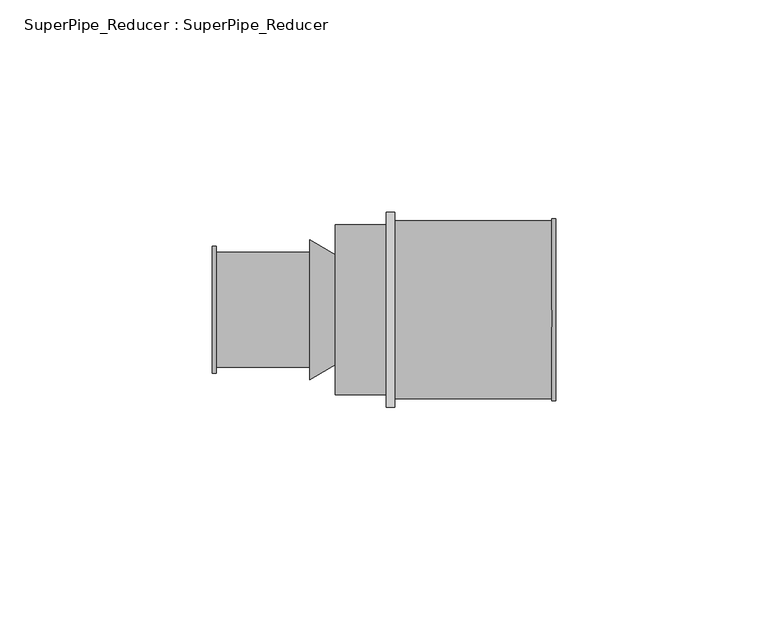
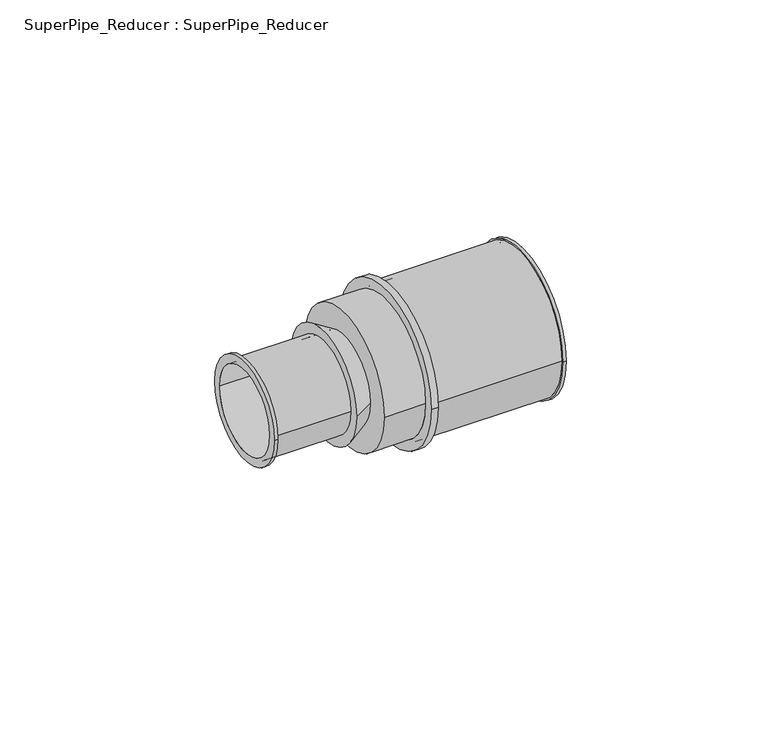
"""IFC4 building model written with IfcOpenShell, lengths in millimetres: pipe fitting geometry, SuperPipe_Reducer : SuperPipe_Reducer."""

from ifc_helpers import new_model, si_unit, point, frame, origin, origin_2d, place, context, project, spatial, polyline, circle_curve, trimmed, segment, composite_curve, outline, extrude, source, transform, mapped, element, save
from ifc_brep_helpers import plane_surface, cylinder_surface, revolved_surface, advanced_brep


def superpipe_reducer_superpipe_reducer_0b1711ec(model_context):
    return source(origin(), model_context, "Body", "SolidModel", [
        advanced_brep(
        [(-29.0, -15.0, 0.0), (-29.0, 15.0, 0.0), (-29.0, -12.5, 0.0), (-29.0, 12.5, 0.0), (-6.0, -13.5, 0.0), (-6.0, 13.5, 0.0), (-6.0, -12.5, 0.0), (-6.0, 12.5, 0.0), (-28.0, -12.5, 0.0), (-28.0, 12.5, 0.0), (-28.0, 13.5, 0.0), (-28.0, -13.5, 0.0), (-28.0, -15.0, 0.0), (-28.0, 15.0, 0.0)],
        [
            (0, 1, circle_curve(frame((-29.0, 0.0, 0.0), z_axis=(-1.0, 0.0, 0.0), x_axis=(0.0, 1.0, 0.0)), 15.0)),
            (1, 0, circle_curve(frame((-29.0, 0.0, 0.0), z_axis=(-1.0, 0.0, 0.0), x_axis=(0.0, 1.0, 0.0)), 15.0)),
            (2, 3, circle_curve(frame((-29.0, 0.0, 0.0), z_axis=(1.0, 0.0, 0.0), x_axis=(0.0, 1.0, 0.0)), 12.5)),
            (3, 2, circle_curve(frame((-29.0, 0.0, 0.0), z_axis=(1.0, 0.0, 0.0), x_axis=(0.0, 1.0, 0.0)), 12.5)),
            (4, 5, circle_curve(frame((-6.0, 0.0, 0.0), z_axis=(1.0, 0.0, 0.0), x_axis=(0.0, 1.0, 0.0)), 13.5)),
            (5, 4, circle_curve(frame((-6.0, 0.0, 0.0), z_axis=(1.0, 0.0, 0.0), x_axis=(0.0, 1.0, 0.0)), 13.5)),
            (6, 7, circle_curve(frame((-6.0, 0.0, 0.0), z_axis=(-1.0, 0.0, 0.0), x_axis=(0.0, 1.0, 0.0)), 12.5)),
            (7, 6, circle_curve(frame((-6.0, 0.0, 0.0), z_axis=(-1.0, 0.0, 0.0), x_axis=(0.0, 1.0, 0.0)), 12.5)),
            (2, 8),
            (8, 6),
            (7, 9),
            (9, 3),
            (5, 10),
            (10, 11, circle_curve(frame((-28.0, 0.0, 0.0), z_axis=(1.0, 0.0, 0.0), x_axis=(0.0, 1.0, 0.0)), 13.5)),
            (11, 4),
            (11, 10, circle_curve(frame((-28.0, 0.0, 0.0), z_axis=(1.0, 0.0, 0.0), x_axis=(0.0, 1.0, 0.0)), 13.5)),
            (12, 13, circle_curve(frame((-28.0, 0.0, 0.0), z_axis=(1.0, 0.0, 0.0), x_axis=(0.0, 1.0, 0.0)), 15.0)),
            (13, 12, circle_curve(frame((-28.0, 0.0, 0.0), z_axis=(1.0, 0.0, 0.0), x_axis=(0.0, 1.0, 0.0)), 15.0)),
            (1, 13),
            (12, 0),
        ],
        [
            plane_surface(frame((-29.0, 0.0, 0.0), z_axis=(-1.0, 0.0, 0.0), x_axis=(0.0, 0.0, 1.0))),
            plane_surface(frame((-6.0, 0.0, 0.0), z_axis=(1.0, 0.0, 0.0), x_axis=(0.0, 0.0, 1.0))),
            revolved_surface(polyline([(-6.0, 12.5, 0.0), (-29.0, 12.5, 0.0)]), (-29.0, 0.0, 0.0), (1.0, 0.0, 0.0)),
            cylinder_surface(frame((-29.0, 0.0, 0.0), z_axis=(-1.0, 0.0, 0.0), x_axis=(0.0, 1.0, 0.0)), 13.5),
            plane_surface(frame((-28.0, 0.0, 0.0), z_axis=(1.0, 0.0, 0.0), x_axis=(0.0, 0.0, 1.0))),
            cylinder_surface(frame((-29.0, 0.0, 0.0), z_axis=(-1.0, 0.0, 0.0), x_axis=(0.0, 1.0, 0.0)), 15.0),
        ],
        [
            (0, [[1, 2], [3, 4]]),
            (1, [[5, 6], [7, 8]]),
            (2, [[-3, 9, 10, -8, 11, 12]]),
            (2, [[-4, -12, -11, -7, -10, -9]]),
            (3, [[-6, 13, 14, 15]]),
            (3, [[-5, -15, 16, -13]]),
            (4, [[17, 18], [-14, -16]]),
            (5, [[-2, 19, -17, 20]]),
            (5, [[-1, -20, -18, -19]]),
        ],
    ),
        advanced_brep(
        [(0.0, -13.0, 0.0), (0.0, 13.0, 0.0), (0.0, -12.5, 0.0), (0.0, 12.5, 0.0), (-6.0, -16.5, 0.0), (-6.0, 16.5, 0.0), (-6.0, 12.5, 0.0), (-6.0, -12.5, 0.0)],
        [
            (0, 1, circle_curve(frame((0.0, 0.0, 0.0), z_axis=(1.0, 0.0, 0.0), x_axis=(0.0, -1.0, 0.0)), 13.0)),
            (1, 0, circle_curve(frame((0.0, 0.0, 0.0), z_axis=(1.0, 0.0, 0.0), x_axis=(0.0, 1.0, 0.0)), 13.0)),
            (2, 3, circle_curve(frame((0.0, 0.0, 0.0), z_axis=(-1.0, 0.0, 0.0), x_axis=(0.0, 1.0, 0.0)), 12.5)),
            (3, 2, circle_curve(frame((0.0, 0.0, 0.0), z_axis=(-1.0, 0.0, 0.0), x_axis=(0.0, 1.0, 0.0)), 12.5)),
            (4, 5, circle_curve(frame((-6.0, 0.0, 0.0), z_axis=(-1.0, 0.0, 0.0), x_axis=(0.0, 1.0, 0.0)), 16.5)),
            (5, 4, circle_curve(frame((-6.0, 0.0, 0.0), z_axis=(-1.0, 0.0, 0.0), x_axis=(0.0, -1.0, 0.0)), 16.5)),
            (6, 7, circle_curve(frame((-6.0, 0.0, 0.0), z_axis=(1.0, 0.0, 0.0), x_axis=(0.0, 1.0, 0.0)), 12.5)),
            (7, 6, circle_curve(frame((-6.0, 0.0, 0.0), z_axis=(1.0, 0.0, 0.0), x_axis=(0.0, 1.0, 0.0)), 12.5)),
            (0, 4),
            (5, 1),
            (6, 3),
            (2, 7),
        ],
        [
            plane_surface(frame((0.0, 0.0, 0.0), z_axis=(1.0, 0.0, 0.0), x_axis=(0.0, 0.0, -1.0))),
            plane_surface(frame((-6.0, 0.0, 0.0), z_axis=(-1.0, 0.0, 0.0), x_axis=(0.0, 0.0, -1.0))),
            revolved_surface(polyline([(0.0, -13.000000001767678, 0.0), (-6.0, -16.5, 0.0)]), (22.2857143, 0.0, 0.0), (-1.0, 0.0, 0.0)),
            revolved_surface(polyline([(0.0, 13.000000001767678, 0.0), (-6.0, 16.5, 0.0)]), (22.2857143, 0.0, 0.0), (-1.0, 0.0, 0.0)),
            revolved_surface(polyline([(-6.0, 12.5, 0.0), (0.0, 12.5, 0.0)]), (-6.0, 0.0, 0.0), (-1.0, 0.0, 0.0)),
        ],
        [
            (0, [[1, 2], [3, 4]]),
            (1, [[5, 6], [7, 8]]),
            (2, [[-1, 9, -6, 10]]),
            (3, [[-2, -10, -5, -9]]),
            (4, [[11, -3, 12, -7]]),
            (4, [[-11, -8, -12, -4]]),
        ],
    ),
        extrude(outline(composite_curve([segment(trimmed(circle_curve(origin_2d(), 23.0), [point((-23.0, 0.0))], [point((23.0, 0.0))], False, "CARTESIAN"), True, "CONTINUOUS"), segment(trimmed(circle_curve(origin_2d(), 23.0), [point((23.0, 0.0))], [point((-23.0, 0.0))], False, "CARTESIAN"), True, "CONTINUOUS")], self_intersect=False), holes=[composite_curve([segment(trimmed(circle_curve(origin_2d(), 20.0), [point((20.0, 0.0))], [point((-20.0, 0.0))], True, "CARTESIAN"), True, "CONTINUOUS"), segment(trimmed(circle_curve(origin_2d(), 20.0), [point((-20.0, 0.0))], [point((20.0, 0.0))], True, "CARTESIAN"), True, "CONTINUOUS")], self_intersect=False)]), frame((12.0, 0.0, 0.0), z_axis=(1.0, 0.0, 0.0), x_axis=(0.0, 1.0, 0.0)), (0.0, 0.0, 1.0), 2.0),
        advanced_brep(
        [(14.0, -21.0, 0.0), (14.0, 21.0, 0.0), (14.0, -20.0, 0.0), (14.0, 20.0, 0.0), (52.0, -21.5, 0.0), (52.0, 21.5, 0.0), (52.0, -20.0, 0.0), (52.0, 20.0, 0.0), (51.0, -21.0, 0.0), (51.0, 21.0, 0.0), (51.0, -20.0, 0.0), (51.0, 20.0, 0.0), (51.0, -21.5, 0.0), (51.0, 21.5, 0.0)],
        [
            (0, 1, circle_curve(frame((14.0, 0.0, 0.0), z_axis=(-1.0, 0.0, 0.0), x_axis=(0.0, 1.0, 0.0)), 21.0)),
            (1, 0, circle_curve(frame((14.0, 0.0, 0.0), z_axis=(-1.0, 0.0, 0.0), x_axis=(0.0, 1.0, 0.0)), 21.0)),
            (2, 3, circle_curve(frame((14.0, 0.0, 0.0), z_axis=(1.0, 0.0, 0.0), x_axis=(0.0, 1.0, 0.0)), 20.0)),
            (3, 2, circle_curve(frame((14.0, 0.0, 0.0), z_axis=(1.0, 0.0, 0.0), x_axis=(0.0, 1.0, 0.0)), 20.0)),
            (4, 5, circle_curve(frame((52.0, 0.0, 0.0), z_axis=(1.0, 0.0, 0.0), x_axis=(0.0, 1.0, 0.0)), 21.5)),
            (5, 4, circle_curve(frame((52.0, 0.0, 0.0), z_axis=(1.0, 0.0, 0.0), x_axis=(0.0, 1.0, 0.0)), 21.5)),
            (6, 7, circle_curve(frame((52.0, 0.0, 0.0), z_axis=(-1.0, 0.0, 0.0), x_axis=(0.0, 1.0, 0.0)), 20.0)),
            (7, 6, circle_curve(frame((52.0, 0.0, 0.0), z_axis=(-1.0, 0.0, 0.0), x_axis=(0.0, 1.0, 0.0)), 20.0)),
            (0, 8),
            (8, 9, circle_curve(frame((51.0, 0.0, 0.0), z_axis=(-1.0, 0.0, 0.0), x_axis=(0.0, 1.0, 0.0)), 21.0)),
            (9, 1),
            (9, 8, circle_curve(frame((51.0, 0.0, 0.0), z_axis=(-1.0, 0.0, 0.0), x_axis=(0.0, 1.0, 0.0)), 21.0)),
            (2, 10),
            (10, 6),
            (7, 11),
            (11, 3),
            (12, 13, circle_curve(frame((51.0, 0.0, 0.0), z_axis=(-1.0, 0.0, 0.0), x_axis=(0.0, 1.0, 0.0)), 21.5)),
            (13, 12, circle_curve(frame((51.0, 0.0, 0.0), z_axis=(-1.0, 0.0, 0.0), x_axis=(0.0, 1.0, 0.0)), 21.5)),
            (13, 5),
            (4, 12),
        ],
        [
            plane_surface(frame((14.0, 0.0, 0.0), z_axis=(-1.0, 0.0, 0.0), x_axis=(0.0, 0.0, 1.0))),
            plane_surface(frame((52.0, 0.0, 0.0), z_axis=(1.0, 0.0, 0.0), x_axis=(0.0, 0.0, 1.0))),
            cylinder_surface(frame((14.0, 0.0, 0.0), z_axis=(-1.0, 0.0, 0.0), x_axis=(0.0, 1.0, 0.0)), 21.0),
            revolved_surface(polyline([(52.0, 20.0, 0.0), (14.0, 20.0, 0.0)]), (14.0, 0.0, 0.0), (1.0, 0.0, 0.0)),
            plane_surface(frame((51.0, 0.0, 0.0), z_axis=(-1.0, 0.0, 0.0), x_axis=(0.0, 0.0, 1.0))),
            cylinder_surface(frame((51.0, 0.0, 0.0), z_axis=(-1.0, 0.0, 0.0), x_axis=(0.0, 1.0, 0.0)), 21.5),
        ],
        [
            (0, [[1, 2], [3, 4]]),
            (1, [[5, 6], [7, 8]]),
            (2, [[-1, 9, 10, 11]]),
            (2, [[-2, -11, 12, -9]]),
            (3, [[-3, 13, 14, -8, 15, 16]]),
            (3, [[-4, -16, -15, -7, -14, -13]]),
            (4, [[17, 18], [-10, -12]]),
            (5, [[-18, 19, -5, 20]]),
            (5, [[-17, -20, -6, -19]]),
        ],
    ),
        extrude(outline(composite_curve([segment(trimmed(circle_curve(origin_2d(), 20.0), [point((-20.0, 0.0))], [point((20.0, 0.0))], False, "CARTESIAN"), True, "CONTINUOUS"), segment(trimmed(circle_curve(origin_2d(), 20.0), [point((20.0, 0.0))], [point((-20.0, 0.0))], False, "CARTESIAN"), True, "CONTINUOUS")], self_intersect=False)), frame((0.0, 0.0, 0.0), z_axis=(1.0, 0.0, 0.0), x_axis=(0.0, 1.0, 0.0)), (0.0, 0.0, 1.0), 12.0),
    ])


if __name__ == "__main__":
    model = new_model("IFC4")
    model_context = context("Model", 3, world=origin())
    ifc_project = project(units=[si_unit("LENGTHUNIT", "METRE", prefix="MILLI")], contexts=[model_context])
    site = spatial("IfcSite", under=ifc_project)
    building = spatial("IfcBuilding", under=site)
    placement = place(None, origin())
    superpipe_reducer_superpipe_reducer_shape = superpipe_reducer_superpipe_reducer_0b1711ec(model_context)
    element("IfcPipeFitting", 1, ObjectType="SuperPipe_Reducer : SuperPipe_Reducer", at=placement, inside=building, context=model_context, shape_type="MappedRepresentation", body=[
        mapped(superpipe_reducer_superpipe_reducer_shape, transform((0.0, 0.0, 0.0), x_axis=(1.0, 0.0, 0.0), y_axis=(0.0, 1.0, 0.0), z_axis=(0.0, 0.0, 1.0))),
    ])
    save(model, "model.ifc")
